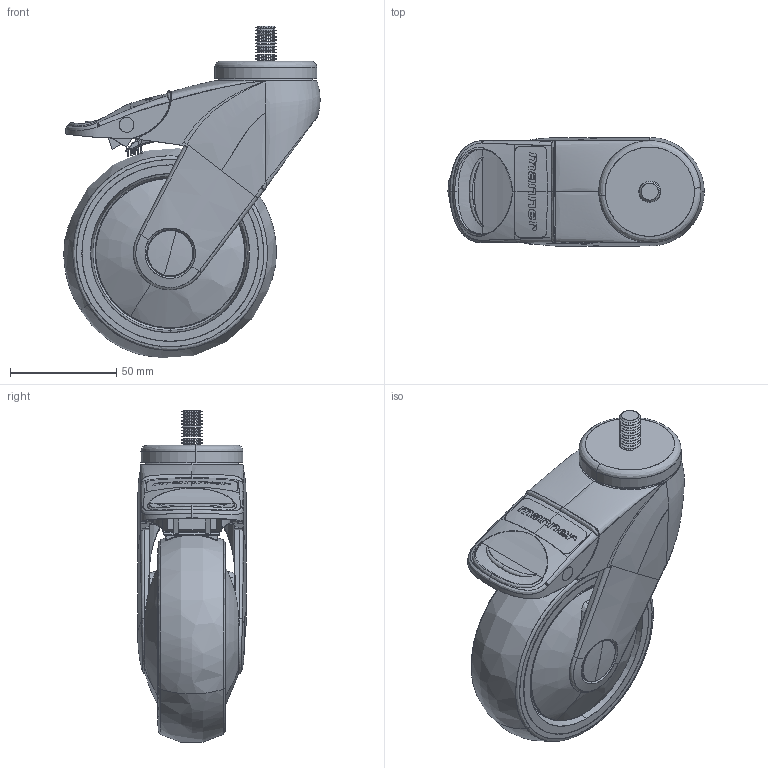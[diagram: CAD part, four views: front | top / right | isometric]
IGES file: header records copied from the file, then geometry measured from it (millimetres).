
Start section: SolidWorks IGES file using analytic representation for surfaces
Global section: file name: S:\Tyokansio\VL\301759_IGES.IGS; native system: SolidWorks 2011; preprocessor: SolidWorks 2011; author: VilleLa; date: 110610.133221; units: millimetre
Bounding box: 120.58 x 51.27 x 156.19 mm (x, y, z)
Surface area: 88808.2 mm2 (no closed solid volume)
Topology: 0 solids, 0 shells, 807 faces, 12805 edges, 12773 vertices
Faces by surface type: bspline 577, revolution 230
